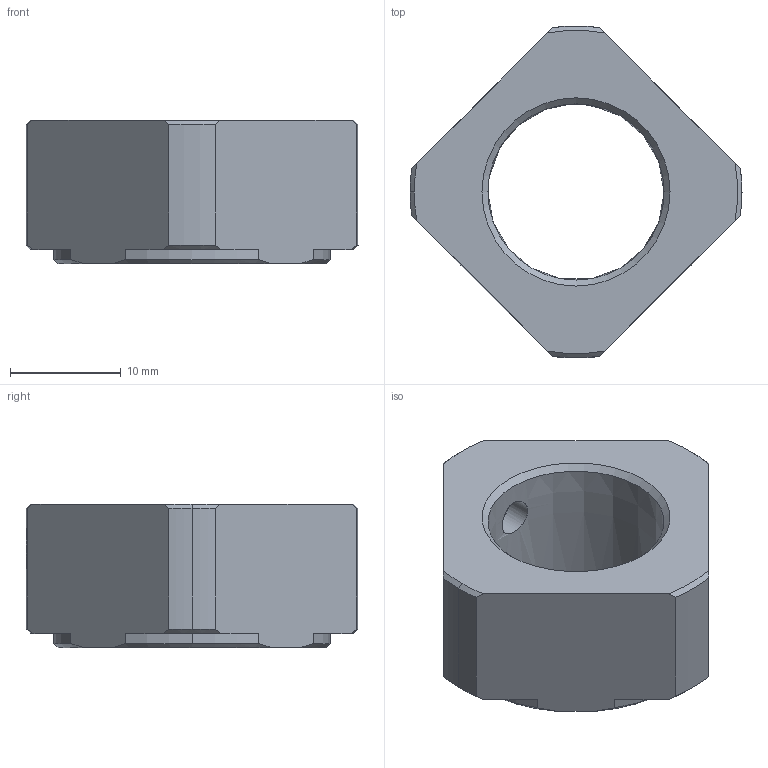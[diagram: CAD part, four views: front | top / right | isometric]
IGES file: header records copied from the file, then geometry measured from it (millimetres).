
Start section: Data from Parasolid IGES Translator 26.0.171, Copyright(c) 2006 Siemens PLM Software. All Rights Reserved.
Global section: file name: RN 17.igs; native system: By Siemens PLM Incorporated; preprocessor: XPlus GENERIC/IGES 26.0.171; author: Noname; organization: Noname; date: 20250611.074149; units: millimetre
Bounding box: 30 x 29.98 x 13 mm (x, y, z)
Surface area: 2500.7 mm2 (no closed solid volume)
Topology: 0 solids, 0 shells, 50 faces, 266 edges, 261 vertices
Faces by surface type: revolution 31, extrusion 19
